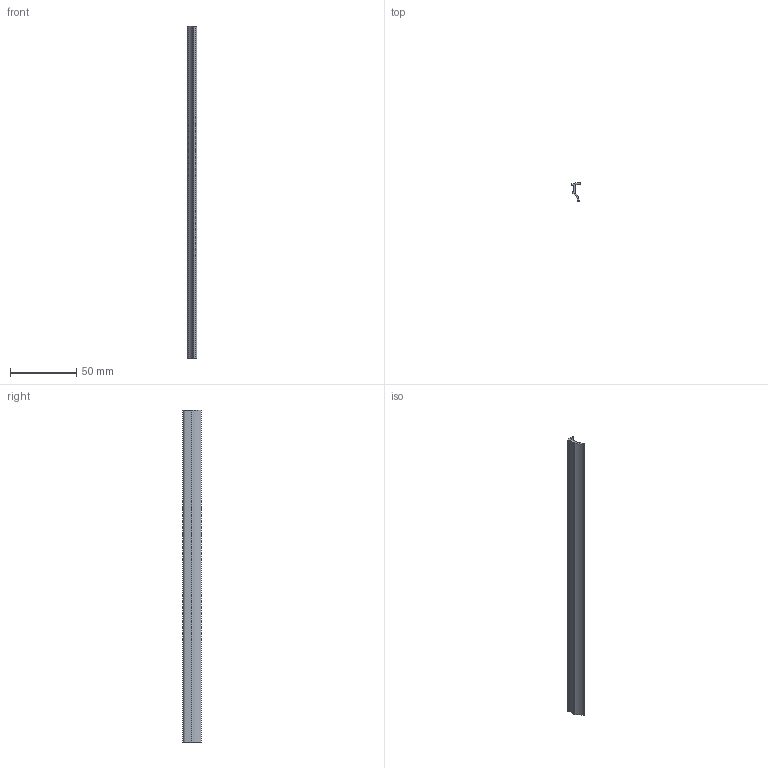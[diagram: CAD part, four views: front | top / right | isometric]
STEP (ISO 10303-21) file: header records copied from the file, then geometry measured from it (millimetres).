
FILE_DESCRIPTION (( 'STEP AP203' ), '1' );
FILE_NAME ('41305100_Dichtprofil grau, S=4-6mm Nut 8, S=6-8mm Nut 10 Zuschnitt.step', '2022-11-14T12:46:39', ( '' ), ( '' ), 'SwSTEP 2.0', 'SolidWorks 2021', '' );
FILE_SCHEMA (( 'CONFIG_CONTROL_DESIGN' ));
Length unit declared in the file: millimetre
Products named in the file (1): 41305100_Dichtprofil grau, S=4-6mm Nut 8, S=6-8mm Nut 10 Zuschnitt
Bounding box: 7 x 14 x 250 mm (x, y, z)
Volume: 7381.1 mm3; surface area: 10410.7 mm2
Topology: 1 solids, 1 shells, 16 faces, 42 edges, 28 vertices
Faces by surface type: cylinder 11, plane 5
Entity records: 585 total; most frequent: DIRECTION 98, CARTESIAN_POINT 87, ORIENTED_EDGE 84, EDGE_CURVE 42, AXIS2_PLACEMENT_3D 39, VERTEX_POINT 28, CIRCLE 22, VECTOR 20
